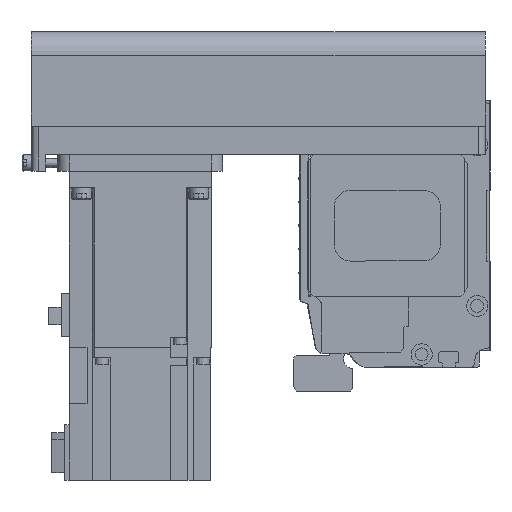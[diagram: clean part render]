
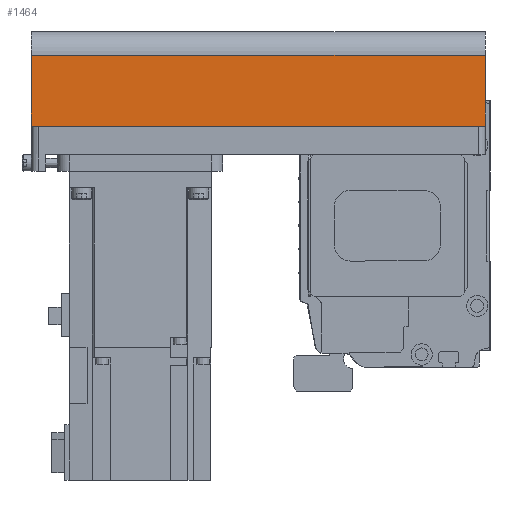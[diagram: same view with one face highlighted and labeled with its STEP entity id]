
A CAD part, left-side view. The second image highlights one B-rep face of the part: STEP entity #1464.
In plain terms, the highlighted planar face has unit normal (-1, 0, 0) as drawn and (0, 1, 0) by its records, which use the part's own axes.
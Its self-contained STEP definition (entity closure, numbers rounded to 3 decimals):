
#1464 = ADVANCED_FACE( '', ( #3393 ), #3394, .T. );
#3393 = FACE_OUTER_BOUND( '', #5929, .T. );
#3394 = PLANE( '', #5930 );
#5929 = EDGE_LOOP( '', ( #9909, #9910, #9911, #9912 ) );
#5930 = AXIS2_PLACEMENT_3D( '', #9913, #9914, #9915 );
#9909 = ORIENTED_EDGE( '', *, *, #15494, .F. );
#9910 = ORIENTED_EDGE( '', *, *, #15495, .F. );
#9911 = ORIENTED_EDGE( '', *, *, #15496, .T. );
#9912 = ORIENTED_EDGE( '', *, *, #15497, .T. );
#9913 = CARTESIAN_POINT( '', ( -192., 40., -42. ) );
#9914 = DIRECTION( '', ( 0., 1., 0. ) );
#9915 = DIRECTION( '', ( 0., 0., 1. ) );
#15494 = EDGE_CURVE( '', #18926, #18218, #18927, .T. );
#15495 = EDGE_CURVE( '', #18928, #18926, #18929, .T. );
#15496 = EDGE_CURVE( '', #18928, #18930, #18931, .T. );
#15497 = EDGE_CURVE( '', #18930, #18218, #18932, .T. );
#18218 = VERTEX_POINT( '', #22474 );
#18926 = VERTEX_POINT( '', #23425 );
#18927 = LINE( '', #23426, #23427 );
#18928 = VERTEX_POINT( '', #23428 );
#18929 = LINE( '', #23429, #23430 );
#18930 = VERTEX_POINT( '', #23431 );
#18931 = LINE( '', #23432, #23433 );
#18932 = LINE( '', #23434, #23435 );
#22474 = CARTESIAN_POINT( '', ( 0., 40., -12.1 ) );
#23425 = CARTESIAN_POINT( '', ( 0., 40., -42. ) );
#23426 = CARTESIAN_POINT( '', ( 0., 40., -42. ) );
#23427 = VECTOR( '', #27192, 1000. );
#23428 = CARTESIAN_POINT( '', ( -192., 40., -42. ) );
#23429 = CARTESIAN_POINT( '', ( -192., 40., -42. ) );
#23430 = VECTOR( '', #27193, 1000. );
#23431 = CARTESIAN_POINT( '', ( -192., 40., -12.1 ) );
#23432 = CARTESIAN_POINT( '', ( -192., 40., -42. ) );
#23433 = VECTOR( '', #27194, 1000. );
#23434 = CARTESIAN_POINT( '', ( -192., 40., -12.1 ) );
#23435 = VECTOR( '', #27195, 1000. );
#27192 = DIRECTION( '', ( 0., 0., 1. ) );
#27193 = DIRECTION( '', ( 1., 0., 0. ) );
#27194 = DIRECTION( '', ( 0., 0., 1. ) );
#27195 = DIRECTION( '', ( 1., 0., 0. ) );
